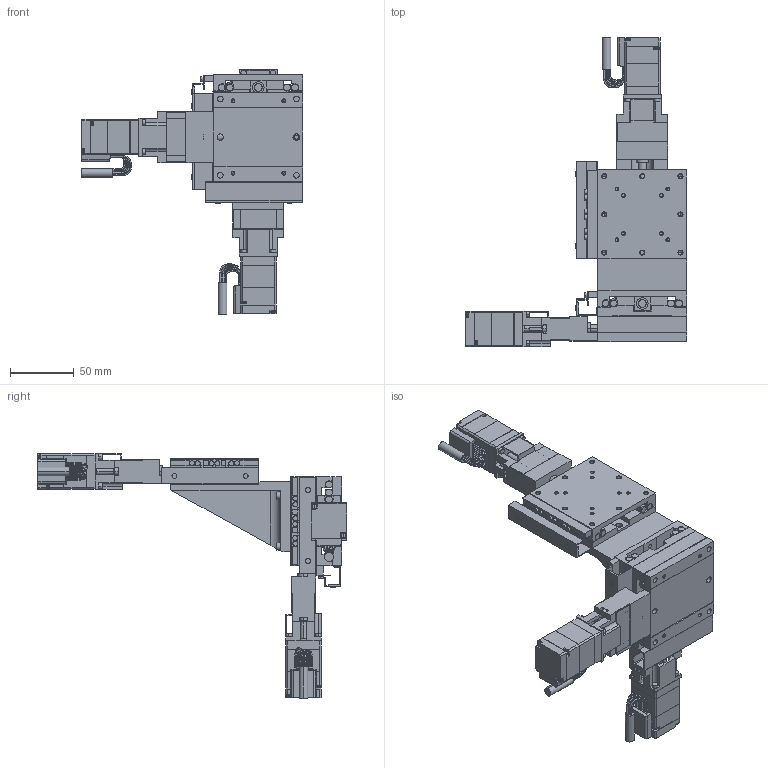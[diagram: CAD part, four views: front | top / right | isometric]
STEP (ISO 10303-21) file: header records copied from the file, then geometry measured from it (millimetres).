
FILE_DESCRIPTION(('STEP AP203'),'1');
FILE_NAME('C:/3D-Trans/3D_PMZG715T-L□-PA+240129.step','2024-03-14T08:35:13',(' '),(' '),'Spatial InterOp 3D',' ',' ');
FILE_SCHEMA(('CONFIG_CONTROL_DESIGN'));
Length unit declared in the file: millimetre
Products named in the file (19): 1; 2; 3; 4; 5; 6; 7; 8; 9; 10; 11; 12; 13; 14; 15; 16; 17; 18; 19
Bounding box: 174.4 x 243.4 x 192.4 mm (x, y, z)
Volume: 514462.8 mm3; surface area: 210967 mm2
Topology: 19 solids, 19 shells, 2291 faces, 6004 edges, 3786 vertices
Faces by surface type: plane 1133, cylinder 700, cone 266, torus 192
Entity records: 71851 total; most frequent: CARTESIAN_POINT 12790, DIRECTION 12761, ORIENTED_EDGE 11840, EDGE_CURVE 5920, AXIS2_PLACEMENT_3D 4573, VERTEX_POINT 3786, LINE 3615, VECTOR 3615
